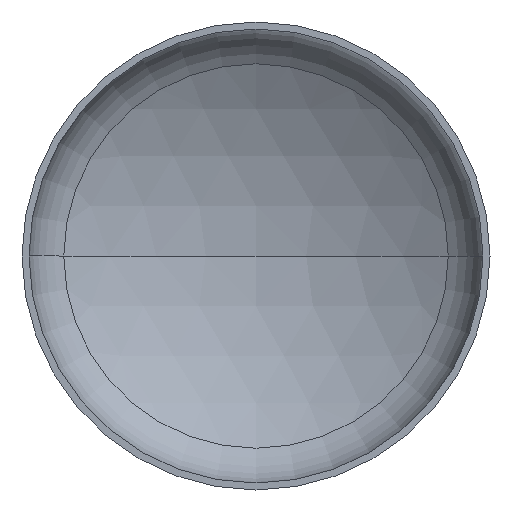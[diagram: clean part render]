
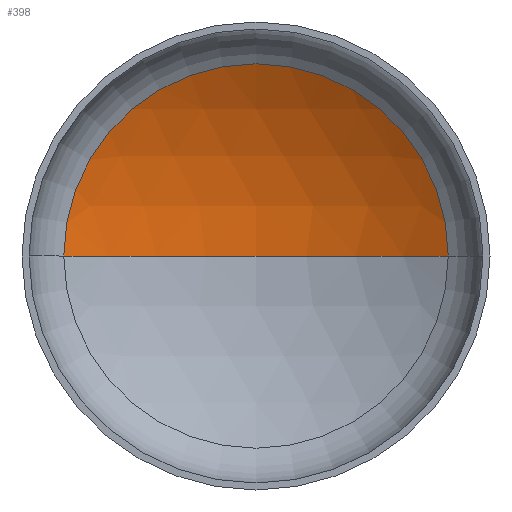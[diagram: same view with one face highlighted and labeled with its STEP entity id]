
A CAD part, front view. The second image highlights one B-rep face of the part: STEP entity #398.
In plain terms, the highlighted spherical face has radius 1440 mm.
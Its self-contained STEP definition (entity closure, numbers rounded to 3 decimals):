
#4 = CARTESIAN_POINT ( 'NONE',  ( 0., -914.81, 0. ) ) ;
#26 = DIRECTION ( 'NONE',  ( 0., 0., -1. ) ) ;
#32 = ORIENTED_EDGE ( 'NONE', *, *, #227, .T. ) ;
#39 = VERTEX_POINT ( 'NONE', #195 ) ;
#61 = EDGE_LOOP ( 'NONE', ( #259, #32, #116 ) ) ;
#75 = DIRECTION ( 'NONE',  ( -1., 0., 0. ) ) ;
#78 = DIRECTION ( 'NONE',  ( 0., 0., 1. ) ) ;
#80 = VERTEX_POINT ( 'NONE', #324 ) ;
#82 = DIRECTION ( 'NONE',  ( 1., 0., 0. ) ) ;
#88 = CARTESIAN_POINT ( 'NONE',  ( 0., -914.81, 0. ) ) ;
#106 = VERTEX_POINT ( 'NONE', #319 ) ;
#116 = ORIENTED_EDGE ( 'NONE', *, *, #224, .T. ) ;
#121 = AXIS2_PLACEMENT_3D ( 'NONE', #88, #78, #82 ) ;
#125 = AXIS2_PLACEMENT_3D ( 'NONE', #4, #26, #75 ) ;
#127 = DIRECTION ( 'NONE',  ( 1., 0., 0. ) ) ;
#128 = DIRECTION ( 'NONE',  ( 0., -1., 0. ) ) ;
#130 = CARTESIAN_POINT ( 'NONE',  ( 0., 321.007, 0. ) ) ;
#131 = AXIS2_PLACEMENT_3D ( 'NONE', #130, #128, #127 ) ;
#146 = SPHERICAL_SURFACE ( 'NONE', #241, 1440. ) ;
#195 = CARTESIAN_POINT ( 'NONE',  ( 0., 525.19, 0. ) ) ;
#202 = CARTESIAN_POINT ( 'NONE',  ( 0., -914.81, 0. ) ) ;
#221 = CIRCLE ( 'NONE', #125, 1440. ) ;
#224 = EDGE_CURVE ( 'NONE', #80, #106, #345, .T. ) ;
#227 = EDGE_CURVE ( 'NONE', #39, #80, #221, .T. ) ;
#234 = EDGE_CURVE ( 'NONE', #39, #106, #282, .T. ) ;
#241 = AXIS2_PLACEMENT_3D ( 'NONE', #202, #409, #284 ) ;
#259 = ORIENTED_EDGE ( 'NONE', *, *, #234, .F. ) ;
#282 = CIRCLE ( 'NONE', #121, 1440. ) ;
#284 = DIRECTION ( 'NONE',  ( -1., 0., 0. ) ) ;
#319 = CARTESIAN_POINT ( 'NONE',  ( -739.159, 321.007, 0. ) ) ;
#324 = CARTESIAN_POINT ( 'NONE',  ( 739.159, 321.007, 0. ) ) ;
#345 = CIRCLE ( 'NONE', #131, 739.159 ) ;
#353 = FACE_OUTER_BOUND ( 'NONE', #61, .T. ) ;
#398 = ADVANCED_FACE ( 'NONE', ( #353 ), #146, .F. ) ;
#409 = DIRECTION ( 'NONE',  ( 0., 0., -1. ) ) ;
